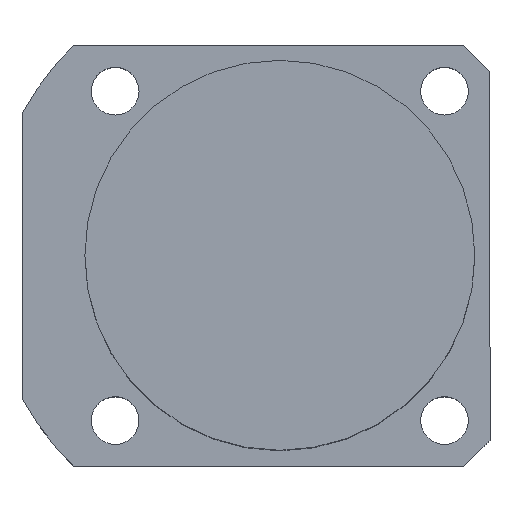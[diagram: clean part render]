
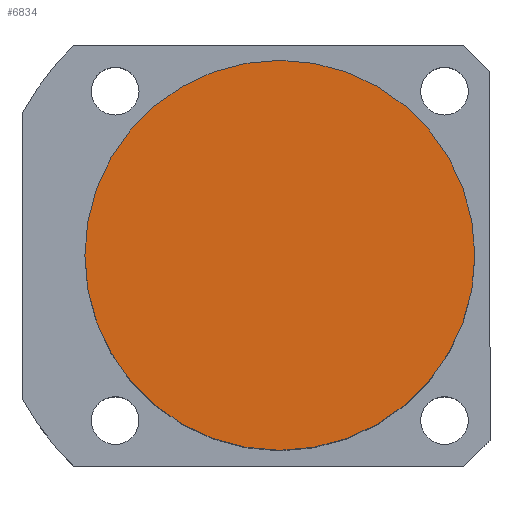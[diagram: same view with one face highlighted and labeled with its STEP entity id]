
A CAD part, top view. The second image highlights one B-rep face of the part: STEP entity #6834.
In plain terms, the highlighted planar face has unit normal (0, 0, 1).
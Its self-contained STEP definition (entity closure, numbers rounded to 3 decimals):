
#395 = FACE_OUTER_BOUND ( 'NONE', #5544, .T. ) ;
#630 = DIRECTION ( 'NONE',  ( 0., 0., 1. ) ) ;
#756 = AXIS2_PLACEMENT_3D ( 'NONE', #5595, #630, #2855 ) ;
#961 = VERTEX_POINT ( 'NONE', #6770 ) ;
#1169 = EDGE_CURVE ( 'NONE', #961, #5577, #6043, .T. ) ;
#1402 = ORIENTED_EDGE ( 'NONE', *, *, #1169, .T. ) ;
#1807 = DIRECTION ( 'NONE',  ( 1., 0., 0. ) ) ;
#2155 = EDGE_CURVE ( 'NONE', #5577, #961, #3364, .T. ) ;
#2855 = DIRECTION ( 'NONE',  ( 1., 0., 0. ) ) ;
#3095 = CARTESIAN_POINT ( 'NONE',  ( 0., 0., 89.5 ) ) ;
#3364 = CIRCLE ( 'NONE', #4455, 45. ) ;
#3652 = DIRECTION ( 'NONE',  ( 1., 0., 0. ) ) ;
#4123 = DIRECTION ( 'NONE',  ( 0., 0., 1. ) ) ;
#4455 = AXIS2_PLACEMENT_3D ( 'NONE', #3095, #6968, #3652 ) ;
#4971 = CARTESIAN_POINT ( 'NONE',  ( -45., 0., 89.5 ) ) ;
#5089 = CARTESIAN_POINT ( 'NONE',  ( 0., 0., 89.5 ) ) ;
#5414 = ORIENTED_EDGE ( 'NONE', *, *, #2155, .T. ) ;
#5544 = EDGE_LOOP ( 'NONE', ( #5414, #1402 ) ) ;
#5577 = VERTEX_POINT ( 'NONE', #4971 ) ;
#5595 = CARTESIAN_POINT ( 'NONE',  ( 0., 0., 89.5 ) ) ;
#5761 = AXIS2_PLACEMENT_3D ( 'NONE', #5089, #4123, #1807 ) ;
#6043 = CIRCLE ( 'NONE', #5761, 45. ) ;
#6170 = PLANE ( 'NONE',  #756 ) ;
#6770 = CARTESIAN_POINT ( 'NONE',  ( 45., 0., 89.5 ) ) ;
#6834 = ADVANCED_FACE ( 'NONE', ( #395 ), #6170, .T. ) ;
#6968 = DIRECTION ( 'NONE',  ( 0., 0., 1. ) ) ;
